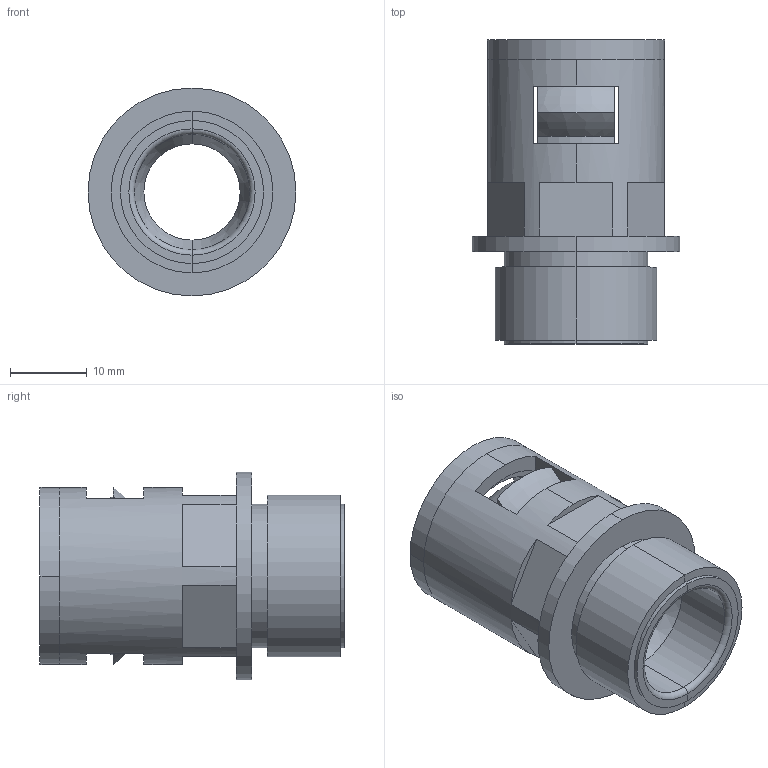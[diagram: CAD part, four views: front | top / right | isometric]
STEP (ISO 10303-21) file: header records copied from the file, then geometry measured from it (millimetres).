
FILE_DESCRIPTION (( 'STEP AP203' ), '1' );
FILE_NAME ('WQG-G1-2-AD15.8.STEP', '2015-12-23T08:02:41', ( 'User' ), ( 'Microsoft' ), 'SwSTEP 2.0', 'SolidWorks 2010', '' );
FILE_SCHEMA (( 'CONFIG_CONTROL_DESIGN' ));
Length unit declared in the file: millimetre
Products named in the file (4): GFD-AD15.8; WQG-G1-2-AD15.8-01; NSK-AD15.8; WQG-G1-2-AD15.8
Assembly tree (3 placements, depth 2):
  WQG-G1-2-AD15.8
    NSK-AD15.8
    GFD-AD15.8
    WQG-G1-2-AD15.8-01
Bounding box: 27 x 39.5 x 27 mm (x, y, z)
Volume: 7486.6 mm3; surface area: 9042.5 mm2
Topology: 3 solids, 3 shells, 157 faces, 386 edges, 236 vertices
Faces by surface type: plane 59, cone 52, cylinder 26, torus 20
Entity records: 5146 total; most frequent: DIRECTION 888, CARTESIAN_POINT 881, ORIENTED_EDGE 772, EDGE_CURVE 386, AXIS2_PLACEMENT_3D 355, VERTEX_POINT 236, CIRCLE 192, VECTOR 178
